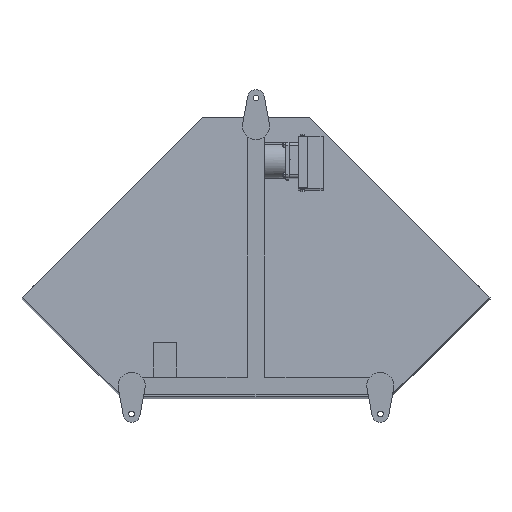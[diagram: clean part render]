
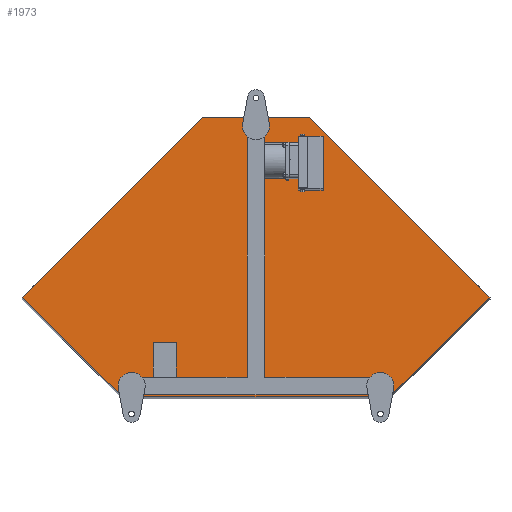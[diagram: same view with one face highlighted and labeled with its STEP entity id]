
A CAD part, front view. The second image highlights one B-rep face of the part: STEP entity #1973.
In plain terms, the highlighted planar face has unit normal (0, -0.999, 0.034).
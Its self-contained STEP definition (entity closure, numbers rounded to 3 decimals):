
#1973=ADVANCED_FACE('',(#6219),#6218,.T.);
#6218=PLANE('',#15562);
#6219=FACE_OUTER_BOUND('',#15563,.T.);
#15559=CARTESIAN_POINT('',(-536.795,-89.026,-110.006));
#15560=DIRECTION('',(0.,-0.999,0.034));
#15561=DIRECTION('',(0.,-0.034,-0.999));
#15562=AXIS2_PLACEMENT_3D('',#15559,#15560,#15561);
#15563=EDGE_LOOP('',(#22161,#22162,#22163,#22164,#22165,#22166));
#22161=ORIENTED_EDGE('',*,*,#26326,.T.);
#22162=ORIENTED_EDGE('',*,*,#26322,.T.);
#22163=ORIENTED_EDGE('',*,*,#26319,.T.);
#22164=ORIENTED_EDGE('',*,*,#26315,.T.);
#22165=ORIENTED_EDGE('',*,*,#26317,.T.);
#22166=ORIENTED_EDGE('',*,*,#26325,.T.);
#26315=EDGE_CURVE('',#33870,#33877,#33884,.T.);
#26317=EDGE_CURVE('',#33877,#33890,#33897,.T.);
#26319=EDGE_CURVE('',#33903,#33870,#33910,.T.);
#26322=EDGE_CURVE('',#33928,#33903,#33929,.T.);
#26325=EDGE_CURVE('',#33890,#33941,#33948,.T.);
#26326=EDGE_CURVE('',#33941,#33928,#33954,.T.);
#33870=VERTEX_POINT('',#50701);
#33877=VERTEX_POINT('',#50705);
#33884=LINE('',#50709,#50710);
#33890=VERTEX_POINT('',#50712);
#33897=LINE('',#50716,#50717);
#33903=VERTEX_POINT('',#50719);
#33910=LINE('',#50723,#50724);
#33928=VERTEX_POINT('',#50732);
#33929=LINE('',#50733,#50734);
#33941=VERTEX_POINT('',#50739);
#33948=LINE('',#50743,#50744);
#33954=LINE('',#50746,#50747);
#50701=CARTESIAN_POINT('',(-300.,-110.549,-749.644));
#50705=CARTESIAN_POINT('',(300.,-110.549,-749.644));
#50709=CARTESIAN_POINT('',(-300.,-110.549,-749.644));
#50710=VECTOR('',#50711,600.);
#50711=DIRECTION('',(1.,0.,0.));
#50712=CARTESIAN_POINT('',(526.795,-103.043,-526.564));
#50716=CARTESIAN_POINT('',(300.,-110.549,-749.644));
#50717=VECTOR('',#50718,318.208);
#50718=DIRECTION('',(0.713,0.024,0.701));
#50719=CARTESIAN_POINT('',(-526.795,-103.043,-526.564));
#50723=CARTESIAN_POINT('',(-526.795,-103.043,-526.564));
#50724=VECTOR('',#50725,318.208);
#50725=DIRECTION('',(0.713,-0.024,-0.701));
#50732=CARTESIAN_POINT('',(-120.,-89.362,-120.));
#50733=CARTESIAN_POINT('',(-120.,-89.362,-120.));
#50734=VECTOR('',#50735,575.294);
#50735=DIRECTION('',(-0.707,-0.024,-0.707));
#50739=CARTESIAN_POINT('',(120.,-89.362,-120.));
#50743=CARTESIAN_POINT('',(526.795,-103.043,-526.564));
#50744=VECTOR('',#50745,575.294);
#50745=DIRECTION('',(-0.707,0.024,0.707));
#50746=CARTESIAN_POINT('',(120.,-89.362,-120.));
#50747=VECTOR('',#50748,240.);
#50748=DIRECTION('',(-1.,0.,0.));
